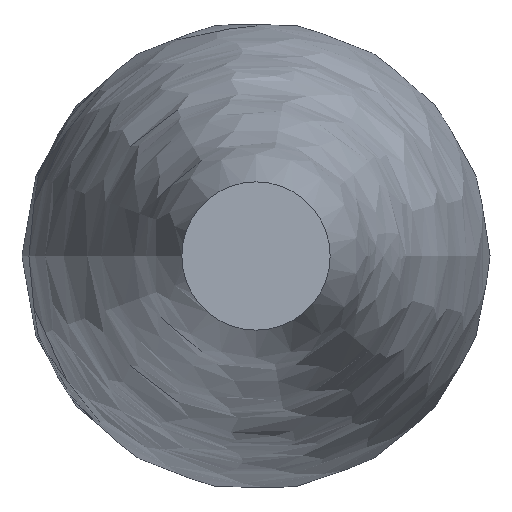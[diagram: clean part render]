
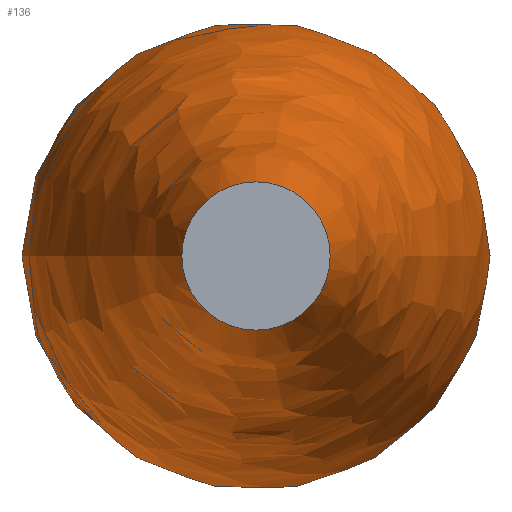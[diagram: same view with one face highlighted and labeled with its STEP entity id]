
A CAD part, left-side view. The second image highlights one B-rep face of the part: STEP entity #136.
In plain terms, the highlighted face is a revolution surface.
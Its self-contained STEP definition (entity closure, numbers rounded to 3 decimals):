
#68=CARTESIAN_POINT('',(1497.061,0.,0.0));
#69=CARTESIAN_POINT('',(1497.385,13.903,0.0));
#70=CARTESIAN_POINT('',(1496.602,26.255,0.0));
#71=CARTESIAN_POINT('',(1496.86,48.471,0.0));
#72=CARTESIAN_POINT('',(1493.079,111.395,0.0));
#73=CARTESIAN_POINT('',(1492.281,120.364,0.0));
#74=CARTESIAN_POINT('',(1484.207,209.07,0.0));
#75=CARTESIAN_POINT('',(1469.132,282.689,0.0));
#76=CARTESIAN_POINT('',(1466.206,330.194,0.0));
#77=CARTESIAN_POINT('',(1362.318,318.713,0.0));
#78=CARTESIAN_POINT('',(1290.143,328.504,0.0));
#79=CARTESIAN_POINT('',(1187.454,321.581,0.0));
#80=CARTESIAN_POINT('',(1092.129,316.058,0.0));
#81=CARTESIAN_POINT('',(990.702,305.157,0.0));
#82=CARTESIAN_POINT('',(892.543,272.814,0.0));
#83=CARTESIAN_POINT('',(790.129,271.566,0.0));
#84=CARTESIAN_POINT('',(693.458,221.373,0.0));
#85=CARTESIAN_POINT('',(591.337,215.086,0.0));
#86=CARTESIAN_POINT('',(492.607,183.157,0.0));
#87=CARTESIAN_POINT('',(357.298,146.258,0.0));
#88=CARTESIAN_POINT('',(245.777,157.953,0.0));
#89=CARTESIAN_POINT('',(157.806,113.145,0.0));
#90=CARTESIAN_POINT('',(110.,103.,0.0));
#91=B_SPLINE_CURVE_WITH_KNOTS('',4,(#68,#69,#70,#71,#72,#73,#74,#75,#76,#77,#78,#79,#80,#81,#82,#83,#84,#85,#86,#87,#88,#89,#90),.UNSPECIFIED.,.F.,.U.,(5,1,1,1,1,1,1,1,1,1,1,1,1,1,1,1,1,1,1,5),(0.0,0.061,0.088,0.121,0.16,0.199,0.242,0.287,0.332,0.383,0.436,0.49,0.544,0.598,0.652,0.706,0.761,0.815,0.869,1.0),.UNSPECIFIED.);
#92=CARTESIAN_POINT('',(110.0,0.0,0.0));
#93=DIRECTION('',(-1.0,0.0,0.0));
#94=AXIS1_PLACEMENT('',#92,#93);
#95=SURFACE_OF_REVOLUTION('',#91,#94);
#96=CARTESIAN_POINT('',(110.0,103.0,0.0));
#97=VERTEX_POINT('',#96);
#98=CARTESIAN_POINT('',(1497.061,0.0,0.0));
#99=VERTEX_POINT('',#98);
#100=CARTESIAN_POINT('',(110.,103.,0.0));
#101=CARTESIAN_POINT('',(157.806,113.145,0.0));
#102=CARTESIAN_POINT('',(245.777,157.953,0.0));
#103=CARTESIAN_POINT('',(357.298,146.258,0.0));
#104=CARTESIAN_POINT('',(492.607,183.157,0.0));
#105=CARTESIAN_POINT('',(591.337,215.086,0.0));
#106=CARTESIAN_POINT('',(693.458,221.373,0.0));
#107=CARTESIAN_POINT('',(790.129,271.566,0.0));
#108=CARTESIAN_POINT('',(892.543,272.814,0.0));
#109=CARTESIAN_POINT('',(990.702,305.157,0.0));
#110=CARTESIAN_POINT('',(1092.129,316.058,0.0));
#111=CARTESIAN_POINT('',(1187.454,321.581,0.0));
#112=CARTESIAN_POINT('',(1290.143,328.504,0.0));
#113=CARTESIAN_POINT('',(1362.318,318.713,0.0));
#114=CARTESIAN_POINT('',(1466.206,330.194,0.0));
#115=CARTESIAN_POINT('',(1469.132,282.689,0.0));
#116=CARTESIAN_POINT('',(1484.207,209.07,0.0));
#117=CARTESIAN_POINT('',(1492.281,120.364,0.0));
#118=CARTESIAN_POINT('',(1493.079,111.395,0.0));
#119=CARTESIAN_POINT('',(1496.86,48.471,0.0));
#120=CARTESIAN_POINT('',(1496.602,26.255,0.0));
#121=CARTESIAN_POINT('',(1497.385,13.903,0.0));
#122=CARTESIAN_POINT('',(1497.061,0.,0.0));
#123=B_SPLINE_CURVE_WITH_KNOTS('',4,(#100,#101,#102,#103,#104,#105,#106,#107,#108,#109,#110,#111,#112,#113,#114,#115,#116,#117,#118,#119,#120,#121,#122),.UNSPECIFIED.,.F.,.U.,(5,1,1,1,1,1,1,1,1,1,1,1,1,1,1,1,1,1,1,5),(0.0,0.131,0.185,0.239,0.294,0.348,0.402,0.456,0.51,0.564,0.617,0.668,0.713,0.758,0.801,0.84,0.879,0.912,0.939,1.0),.UNSPECIFIED.);
#124=EDGE_CURVE('',#97,#99,#123,.T.);
#125=ORIENTED_EDGE('',*,*,#124,.T.);
#126=ORIENTED_EDGE('',*,*,#124,.F.);
#127=CARTESIAN_POINT('',(110.0,0.0,0.0));
#128=DIRECTION('',(1.0,0.0,0.0));
#129=DIRECTION('',(0.0,1.0,0.0));
#130=AXIS2_PLACEMENT_3D('',#127,#128,#129);
#131=CIRCLE('',#130,103.0);
#132=EDGE_CURVE('',#97,#97,#131,.T.);
#133=ORIENTED_EDGE('',*,*,#132,.T.);
#134=EDGE_LOOP('',(#125,#126,#133));
#135=FACE_OUTER_BOUND('',#134,.T.);
#136=ADVANCED_FACE('',(#135),#95,.T.);
